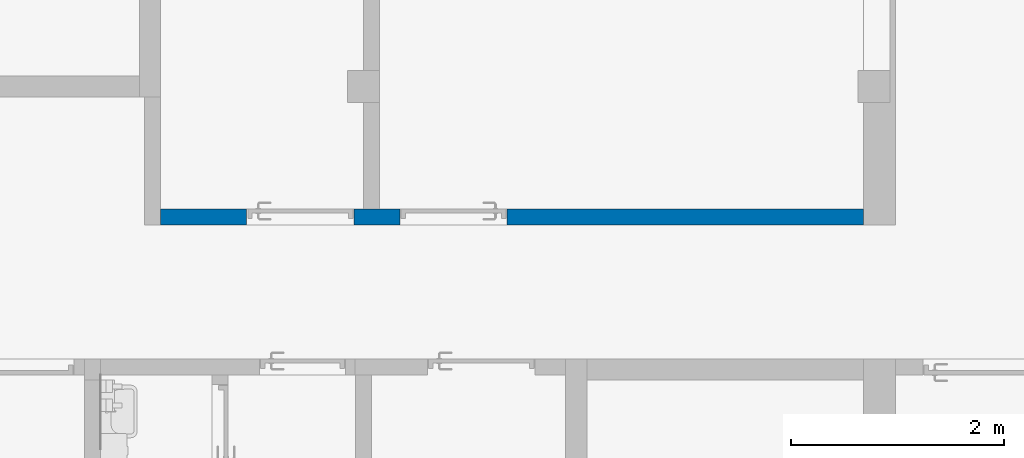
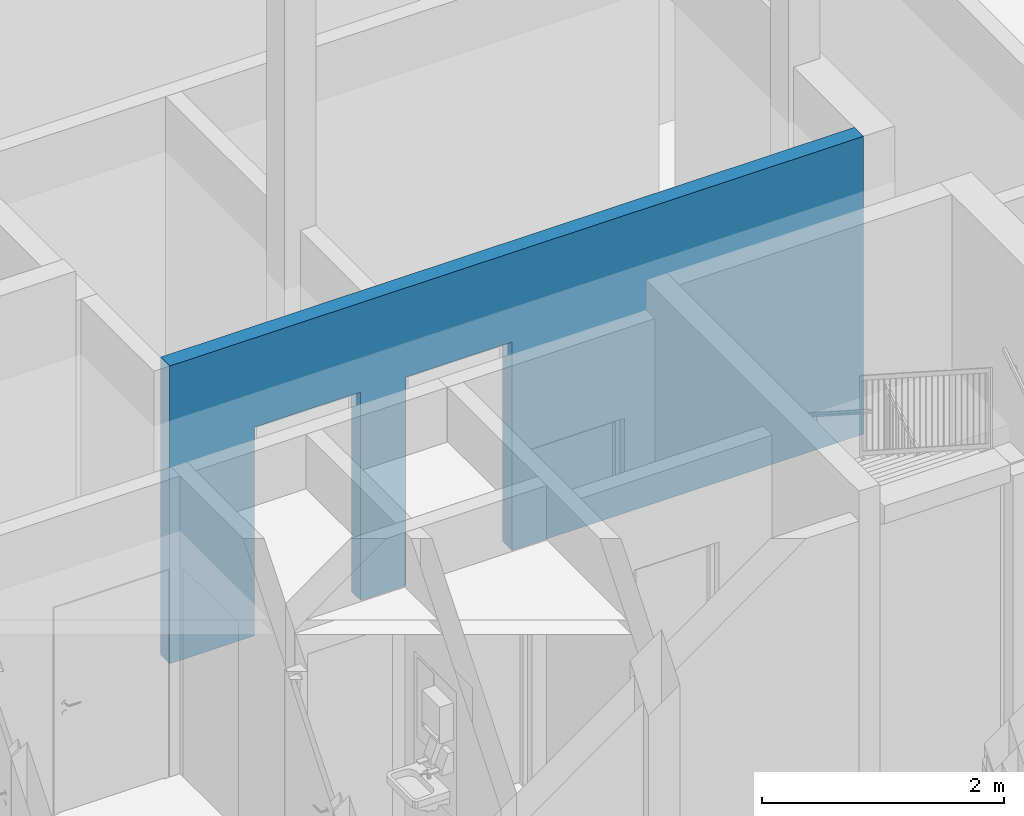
# One storey, part 30 of 58: 1 wall, 2 openings.
"""IFC2X3 building model written with IfcOpenShell, lengths in millimetres."""

from ifc_helpers import new_model, entity, si_unit, converted_unit, derived_unit, direction, frame, frame_2d, origin, place, context, subcontext, project, spatial, polyline, rectangle, extrude, clip, bounded_halfspace, material, layer, layer_set, layer_usage, type_object, element, save


model = new_model("IFC2X3")

# Units and contexts
model_context = context("Model", 3, precision=0.01, world=origin(), true_north=direction((0.7716245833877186, 0.6360782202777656)))
body_context = subcontext(model_context, "Body", "Model", "MODEL_VIEW")
ifc_project = project(units=[si_unit("LENGTHUNIT", "METRE", prefix="MILLI"), si_unit("AREAUNIT", "SQUARE_METRE"), converted_unit("PLANEANGLEUNIT", "DEGREE", entity("IfcPlaneAngleMeasure", 0.017453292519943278), si_unit("PLANEANGLEUNIT", "RADIAN"), dimensions=[0, 0, 0, 0, 0, 0, 0]), derived_unit("THERMALTRANSMITTANCEUNIT", [(si_unit("MASSUNIT", "GRAM", prefix="KILO"), 1), (si_unit("THERMODYNAMICTEMPERATUREUNIT", "KELVIN"), -1), (si_unit("TIMEUNIT", "SECOND"), -3)])], contexts=[model_context])

# Site, building, storey
site_placement = place(None, origin())
site = spatial("IfcSite", under=ifc_project, at=site_placement, Name="Default", CompositionType="ELEMENT")
building_placement = place(site_placement, origin())
building = spatial("IfcBuilding", under=site, at=building_placement, CompositionType="ELEMENT")
storey_placement = place(building_placement, frame((0.0, 0.0, 31140.0)))
storey = spatial("IfcBuildingStorey", under=building, at=storey_placement, Name="PLAN U1", CompositionType="ELEMENT", Elevation=31140.000000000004)

# Wall, openings
ifc_material = material(Name="Eksist. vegg")
ifc_layer = layer(ifc_material, 150.0)
ifc_layer_set = layer_set([ifc_layer], Name="Basic Wall:240 Eksist. Innervegg 150 mm")
ifc_layer_usage = layer_usage(ifc_layer_set, "AXIS2", "NEGATIVE", 75.0)
wall_type = type_object("IfcWallType", Name="Basic Wall:240 Eksist. Innervegg 150 mm", PredefinedType="STANDARD", material=ifc_layer_set)
wall_placement = place(storey_placement, frame((264007.9244464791, 64090.25555007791, 0.0)))
wall = element("IfcWallStandardCase", 1, at=wall_placement, inside=storey, type_object=wall_type, material=ifc_layer_usage, Name="Basic Wall:240 Eksist. Innervegg 150 mm", ObjectType="Basic Wall:240 Eksist. Innervegg 150 mm", context=body_context, shape_type="Clipping", body=[
    clip(extrude(rectangle(XDim=6609.999999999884, YDim=150.00000000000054, at=frame_2d((3304.999999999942, -2.8421709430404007e-13), x_axis=(1.0, 0.0))), origin(), (0.0, 0.0, 1.0), 2999.9999999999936), bounded_halfspace(frame((0.0, -75.0, 3000.0), z_axis=(0.0, 0.0, -1.0), x_axis=(0.0, 1.0, 0.0)), True, frame((0.0, -75.0, 3000.0)), polyline([(0.0, 0.0), (6610.0, 0.0), (6610.0, 150.0), (0.0, 150.0), (0.0, 0.0)]))),
])
opening_1_placement = place(wall_placement, frame((810.0, -75.0, 0.0)))
element("IfcOpeningElement", 2, at=opening_1_placement, cuts=wall, Name="Enfløyet:2441 Innvendig 10x21M:1", ObjectType="Opening", context=body_context, shape_type="SweptSolid", body=[
    extrude(rectangle(XDim=2100.0, YDim=1009.9999999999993, at=frame_2d((1049.9999999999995, 504.99999999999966), x_axis=(1.0, 0.0))), frame((0.0, 0.0, 0.0), z_axis=(0.0, 1.0, 0.0), x_axis=(0.0, 0.0, 1.0)), (0.0, 0.0, 1.0), 150.0),
])
opening_2_placement = place(wall_placement, frame((2250.0, -75.0, 0.0)))
element("IfcOpeningElement", 3, at=opening_2_placement, cuts=wall, Name="Enfløyet:2441 Innvendig 10x21M:1", ObjectType="Opening", context=body_context, shape_type="SweptSolid", body=[
    extrude(rectangle(XDim=2100.0, YDim=1009.9999999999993, at=frame_2d((1049.9999999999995, 505.0000000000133), x_axis=(1.0, 0.0))), frame((0.0, 0.0, 0.0), z_axis=(0.0, 1.0, 0.0), x_axis=(0.0, 0.0, 1.0)), (0.0, 0.0, 1.0), 150.0),
])

save(model, "model.ifc")
